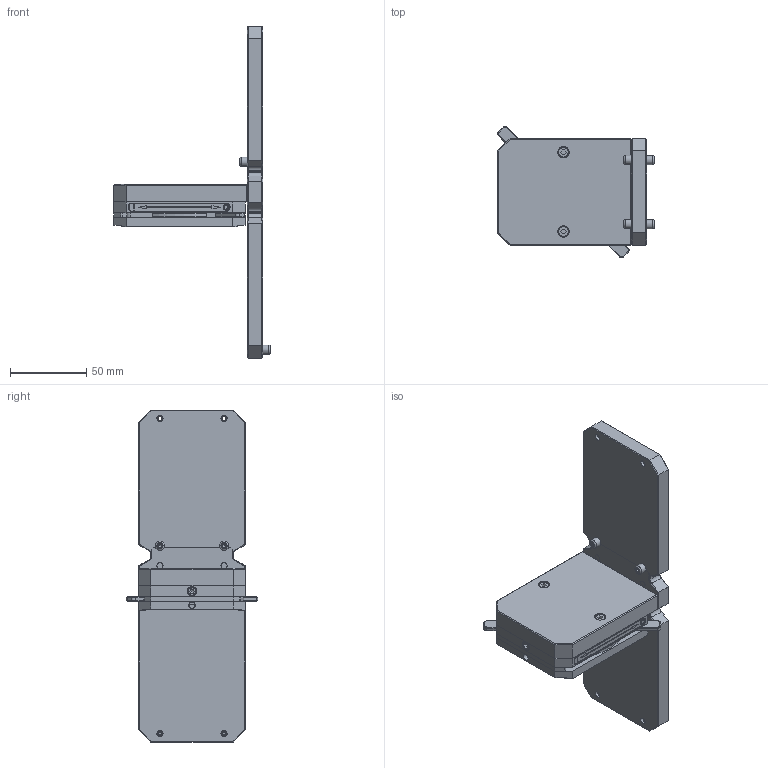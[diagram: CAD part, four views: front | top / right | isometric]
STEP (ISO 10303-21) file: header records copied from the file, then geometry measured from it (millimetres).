
FILE_DESCRIPTION(/* description */ (''),/* implementation_level */ '2;1');
FILE_NAME(/* name */ 'LA-5103-4430-A_VERTICAL MOUNT MAG.BASE ASSY.stp',/* time_stamp */ '2020-02-11T08:57:51+00:00',/* author */ (''),/* organization */ (''),/* preprocessor_version */ 'ST-DEVELOPER v16.7',/* originating_system */ 'SIEMENS PLM Software NX 12.0',/* authorisation */ '');
FILE_SCHEMA (('AUTOMOTIVE_DESIGN { 1 0 10303 214 3 1 1 1 }'));
Length unit declared in the file: millimetre
Products named in the file (1): LA-5103-4430-A_VERTICAL MOUNT MAG.BASE ASSY
Bounding box: 102.5 x 86.01 x 217.6 mm (x, y, z)
Volume: 323097.4 mm3; surface area: 80032.2 mm2
Topology: 2 solids, 20 shells, 1008 faces, 2565 edges, 1655 vertices
Faces by surface type: plane 621, cylinder 294, cone 83, torus 10
Full cylindrical faces by diameter (mm): 2.3 x4, 2.545 x3, 2.6 x26, 3 x1, 3.065 x1, 3.2 x2, 3.4 x2, 3.7 x2, 4 x6, 4.03 x24, 4.2 x4, 4.3 x2, 4.5 x2, 5 x2, 5.5 x4, 6 x4, 7 x2, 7.5 x2, 7.985 x2, 8.03 x2, 8.5 x2, 9 x4
Entity records: 32382 total; most frequent: CARTESIAN_POINT 5448, DIRECTION 5040, ORIENTED_EDGE 4668, EDGE_CURVE 2334, AXIS2_PLACEMENT_3D 1775, VERTEX_POINT 1587, LINE 1490, VECTOR 1490
